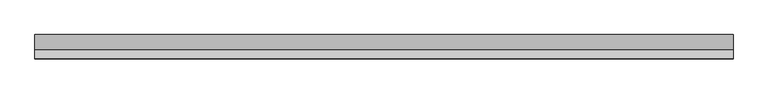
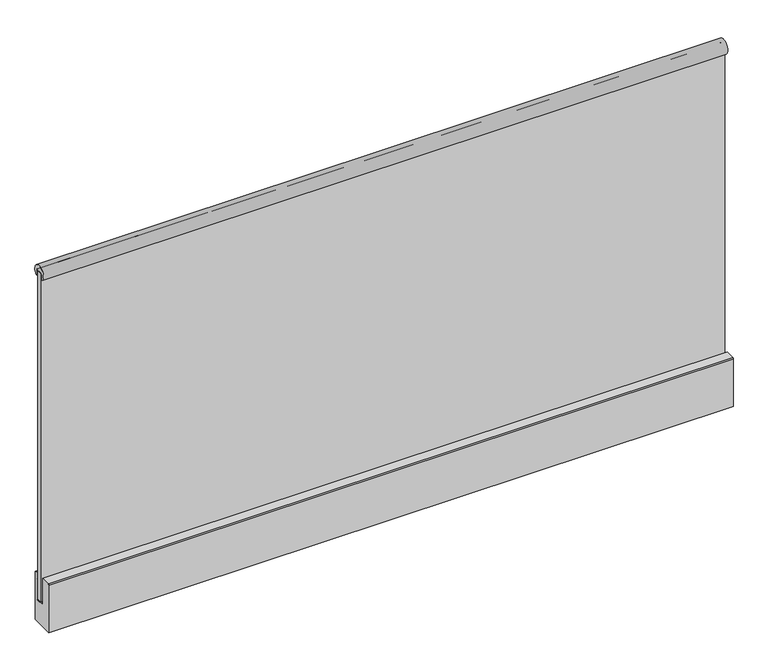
"""IFC4 building model written with IfcOpenShell, lengths in millimetres: railing geometry, Glass Railing (8+8) - Faraone - Ninfa 176 - Wall mounted - Elipse Handrail 50."""

from ifc_helpers import new_model, si_unit, point, frame, frame_2d, origin, place, context, project, spatial, polyline, circle_curve, trimmed, segment, composite_curve, outline, extrude, source, transform, mapped, element, save


def railing_4d57ba7c(model_context):
    return source(origin(), model_context, "Body", "SweptSolid", [
        extrude(outline(composite_curve([segment(trimmed(circle_curve(frame_2d((25.0321604, 1084.5209903)), 25.0), [point((7.6828089, 1066.5209903))], [point((42.381512, 1066.5209903))], False, "CARTESIAN"), True, "CONTINUOUS"), segment(polyline([(42.381512, 1066.5209903), (39.4121604, 1066.5209903), (39.4121604, 1085.52)]), True, "CONTINUOUS"), segment(trimmed(circle_curve(frame_2d((35.4121604, 1085.52)), 4.0), [point((39.4121604, 1085.52))], [point((35.4121604, 1089.52))], True, "CARTESIAN"), True, "CONTINUOUS"), segment(polyline([(35.4121604, 1089.52), (14.6521604, 1089.52)]), True, "CONTINUOUS"), segment(trimmed(circle_curve(frame_2d((14.6521604, 1085.52)), 4.0), [point((14.6521604, 1089.52))], [point((10.6521604, 1085.52))], True, "CARTESIAN"), True, "CONTINUOUS"), segment(polyline([(10.6521604, 1085.52), (10.6521604, 1066.5209903), (7.6828089, 1066.5209903)]), True, "CONTINUOUS")], self_intersect=False)), frame((4362.6376845, 0.0, 0.0), z_axis=(1.0, 0.0, 0.0), x_axis=(0.0, 1.0, 0.0)), (0.0, 0.0, 1.0), 2320.0),
        extrude(outline(polyline([(33.4221604, -92.36), (16.6221604, -92.36), (16.6221604, 1087.04), (24.5221604, 1087.04), (24.5221604, -91.56), (25.5221604, -91.56), (25.5221604, 1087.04), (33.4221604, 1087.04), (33.4221604, -92.36)])), frame((4362.6376845, 0.0, 0.0), z_axis=(1.0, 0.0, 0.0), x_axis=(0.0, 1.0, 0.0)), (0.0, 0.0, 1.0), 2320.0),
        extrude(outline(composite_curve([segment(trimmed(circle_curve(frame_2d((45.91473, -3.1212327)), 3.1206002), [point((45.91473, -0.0006325))], [point((49.0353302, -3.1212327))], False, "CARTESIAN"), True, "CONTINUOUS"), segment(polyline([(49.0353302, -3.1212327), (49.0353302, -173.21), (-31.3082032, -173.21), (-31.3082032, -3.0621312)]), True, "CONTINUOUS"), segment(trimmed(circle_curve(frame_2d((-28.2467045, -3.0621312)), 3.0614987), [point((-31.3082032, -3.0621312))], [point((-28.2467045, -0.0006325))], False, "CARTESIAN"), True, "CONTINUOUS"), segment(polyline([(-28.2467045, -0.0006325), (4.2340314, -0.0006325), (4.2340314, -95.3393625), (36.0102895, -95.3393625), (36.0102895, -0.0006325), (45.91473, -0.0006325)]), True, "CONTINUOUS")], self_intersect=False)), frame((4362.6376845, 0.0, 0.0), z_axis=(1.0, 0.0, 0.0), x_axis=(0.0, 1.0, 0.0)), (0.0, 0.0, 1.0), 2320.0),
        extrude(outline(polyline([(36.0140752, -95.34), (12.5302457, -95.34), (12.5302457, -92.3609041), (33.2901272, -92.3609041), (33.2901272, -20.1108016), (36.0140752, -20.1108016), (36.0140752, -95.34)])), frame((4362.6376845, 0.0, 0.0), z_axis=(1.0, 0.0, 0.0), x_axis=(0.0, 1.0, 0.0)), (0.0, 0.0, 1.0), 2320.0),
        extrude(outline(polyline([(4362.6376845, 33.4221604), (4362.6376845, 39.4221604), (6682.6376845, 39.4221604), (6682.6376845, 33.4221604), (4362.6376845, 33.4221604)])), frame((0.0, 0.0, 1066.52), z_axis=(0.0, 0.0, 1.0), x_axis=(1.0, 0.0, 0.0)), (0.0, 0.0, 1.0), 17.0),
        extrude(outline(polyline([(4362.6376845, 10.6421604), (4362.6376845, 16.6421604), (6682.6376845, 16.6421604), (6682.6376845, 10.6421604), (4362.6376845, 10.6421604)])), frame((0.0, 0.0, 1066.52), z_axis=(0.0, 0.0, 1.0), x_axis=(1.0, 0.0, 0.0)), (0.0, 0.0, 1.0), 17.0),
        extrude(outline(polyline([(4362.6376845, 14.3421604), (4362.6376845, 35.8421604), (6682.6376845, 35.8421604), (6682.6376845, 14.3421604), (4362.6376845, 14.3421604)])), frame((0.0, 0.0, 1087.02), z_axis=(0.0, 0.0, 1.0), x_axis=(1.0, 0.0, 0.0)), (0.0, 0.0, 1.0), 2.5),
    ])


if __name__ == "__main__":
    model = new_model("IFC4")
    model_context = context("Model", 3, world=origin())
    ifc_project = project(units=[si_unit("LENGTHUNIT", "METRE", prefix="MILLI")], contexts=[model_context])
    site = spatial("IfcSite", under=ifc_project)
    building = spatial("IfcBuilding", under=site)
    placement = place(None, origin())
    railing_shape = railing_4d57ba7c(model_context)
    element("IfcRailing", 1, ObjectType="Glass Railing (8+8) - Faraone - Ninfa 176 - Wall mounted - Elipse Handrail 50", at=placement, inside=building, context=model_context, shape_type="MappedRepresentation", body=[
        mapped(railing_shape, transform((0.0, 0.0, 0.0), x_axis=(1.0, 0.0, 0.0), y_axis=(0.0, 1.0, 0.0), z_axis=(0.0, 0.0, 1.0))),
    ])
    save(model, "model.ifc")
